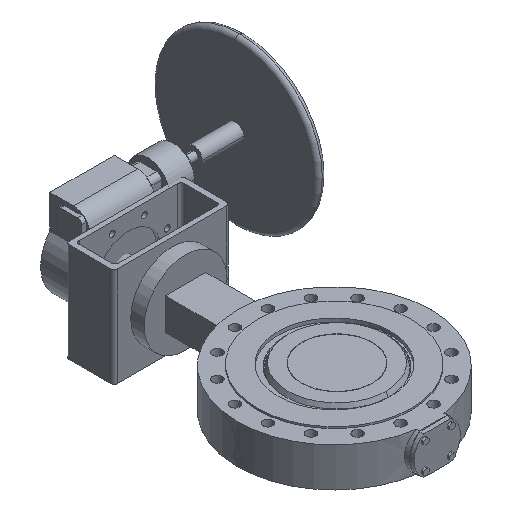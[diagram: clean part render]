
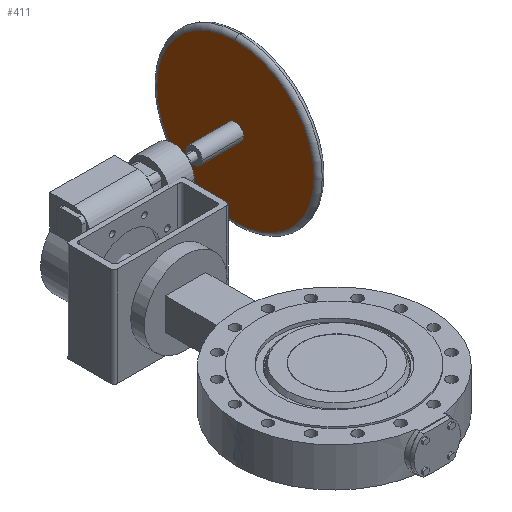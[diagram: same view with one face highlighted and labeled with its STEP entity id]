
A CAD part, isometric view. The second image highlights one B-rep face of the part: STEP entity #411.
In plain terms, the highlighted planar face has unit normal (-1, 0, 0).
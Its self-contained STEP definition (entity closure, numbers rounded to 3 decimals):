
#411 = ADVANCED_FACE( '', ( #1089, #1090 ), #1091, .T. );
#1089 = FACE_OUTER_BOUND( '', #1787, .T. );
#1090 = FACE_BOUND( '', #1788, .T. );
#1091 = PLANE( '', #1789 );
#1787 = EDGE_LOOP( '', ( #4161, #4162, #4163 ) );
#1788 = EDGE_LOOP( '', ( #4164, #4165 ) );
#1789 = AXIS2_PLACEMENT_3D( '', #4166, #4167, #4168 );
#4161 = ORIENTED_EDGE( '', *, *, #4934, .F. );
#4162 = ORIENTED_EDGE( '', *, *, #4933, .F. );
#4163 = ORIENTED_EDGE( '', *, *, #4930, .F. );
#4164 = ORIENTED_EDGE( '', *, *, #4946, .T. );
#4165 = ORIENTED_EDGE( '', *, *, #5083, .T. );
#4166 = CARTESIAN_POINT( '', ( 392., 822.25, 130. ) );
#4167 = DIRECTION( '', ( -1., 0., 0. ) );
#4168 = DIRECTION( '', ( 0., -1., 0. ) );
#4930 = EDGE_CURVE( '', #6127, #6129, #6130, .T. );
#4933 = EDGE_CURVE( '', #6129, #6133, #6134, .T. );
#4934 = EDGE_CURVE( '', #6133, #6127, #6135, .T. );
#4946 = EDGE_CURVE( '', #6152, #6156, #6158, .T. );
#5083 = EDGE_CURVE( '', #6156, #6152, #6387, .T. );
#6127 = VERTEX_POINT( '', #8605 );
#6129 = VERTEX_POINT( '', #8607 );
#6130 = CIRCLE( '', #8608, 237.5 );
#6133 = VERTEX_POINT( '', #8611 );
#6134 = CIRCLE( '', #8612, 237.5 );
#6135 = CIRCLE( '', #8613, 237.5 );
#6152 = VERTEX_POINT( '', #8632 );
#6156 = VERTEX_POINT( '', #8637 );
#6158 = CIRCLE( '', #8640, 25. );
#6387 = CIRCLE( '', #8994, 25. );
#8605 = CARTESIAN_POINT( '', ( 392., 691., 367.5 ) );
#8607 = CARTESIAN_POINT( '', ( 392., 691., -107.5 ) );
#8608 = AXIS2_PLACEMENT_3D( '', #10173, #10174, #10175 );
#8611 = CARTESIAN_POINT( '', ( 392., 928.5, 130. ) );
#8612 = AXIS2_PLACEMENT_3D( '', #10182, #10183, #10184 );
#8613 = AXIS2_PLACEMENT_3D( '', #10185, #10186, #10187 );
#8632 = CARTESIAN_POINT( '', ( 392., 716., 130. ) );
#8637 = CARTESIAN_POINT( '', ( 392., 666., 130. ) );
#8640 = AXIS2_PLACEMENT_3D( '', #10213, #10214, #10215 );
#8994 = AXIS2_PLACEMENT_3D( '', #10447, #10448, #10449 );
#10173 = CARTESIAN_POINT( '', ( 392., 691., 130. ) );
#10174 = DIRECTION( '', ( 1., 0., 0. ) );
#10175 = DIRECTION( '', ( 0., 1., 0. ) );
#10182 = CARTESIAN_POINT( '', ( 392., 691., 130. ) );
#10183 = DIRECTION( '', ( 1., 0., 0. ) );
#10184 = DIRECTION( '', ( 0., 1., 0. ) );
#10185 = CARTESIAN_POINT( '', ( 392., 691., 130. ) );
#10186 = DIRECTION( '', ( 1., 0., 0. ) );
#10187 = DIRECTION( '', ( 0., 1., 0. ) );
#10213 = CARTESIAN_POINT( '', ( 392., 691., 130. ) );
#10214 = DIRECTION( '', ( 1., 0., 0. ) );
#10215 = DIRECTION( '', ( 0., 1., 0. ) );
#10447 = CARTESIAN_POINT( '', ( 392., 691., 130. ) );
#10448 = DIRECTION( '', ( 1., 0., 0. ) );
#10449 = DIRECTION( '', ( 0., 1., 0. ) );
